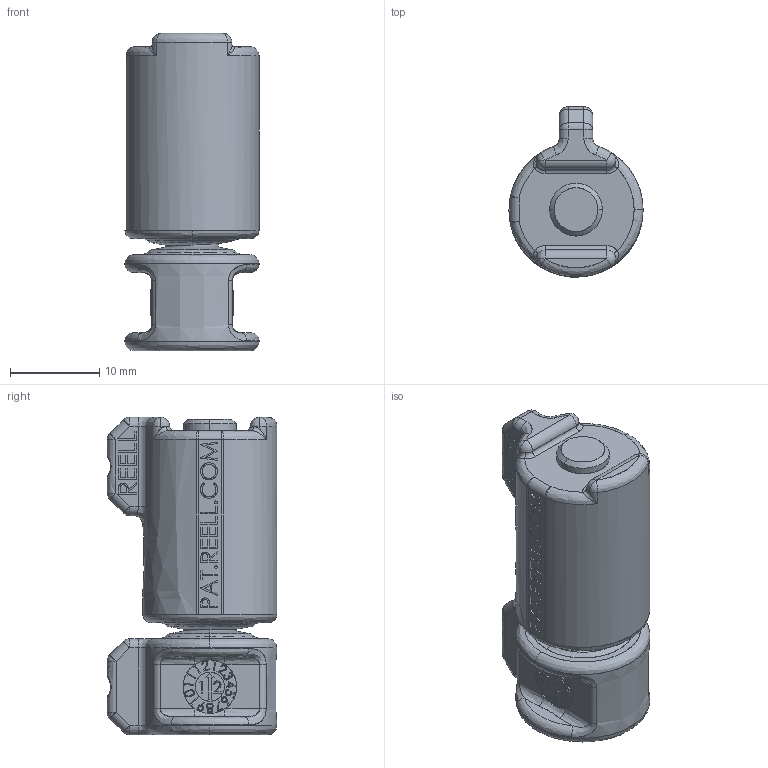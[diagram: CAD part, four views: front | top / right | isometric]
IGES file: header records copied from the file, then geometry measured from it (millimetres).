
Start section: SolidWorks IGES file using analytic representation for surfaces
Global section: file name: G:\RELEASED\FINALS\40-xxx TI-140\TI-140-X.XX-01.IGS; native system: SolidWorks 2017; preprocessor: SolidWorks 2017; author: hmanderson; date: 180810.141847; units: millimetre
Bounding box: 15 x 19 x 35.5 mm (x, y, z)
Surface area: 3291.1 mm2 (no closed solid volume)
Topology: 0 solids, 0 shells, 891 faces, 8705 edges, 8690 vertices
Faces by surface type: bspline 765, revolution 126
